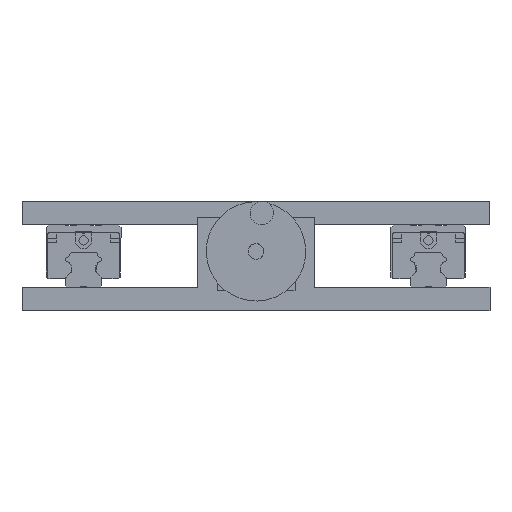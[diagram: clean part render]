
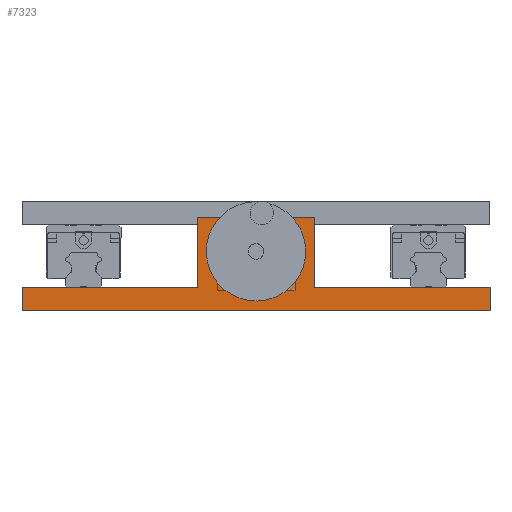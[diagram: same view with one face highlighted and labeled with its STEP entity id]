
A CAD part, front view. The second image highlights one B-rep face of the part: STEP entity #7323.
In plain terms, the highlighted planar face has unit normal (0, -1, 0).
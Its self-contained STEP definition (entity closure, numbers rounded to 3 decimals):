
#144 = DIRECTION ( 'NONE',  ( 1., 0., 0. ) ) ;
#635 = CARTESIAN_POINT ( 'NONE',  ( -150., -966.5, 15. ) ) ;
#1485 = ORIENTED_EDGE ( 'NONE', *, *, #26639, .F. ) ;
#1742 = VERTEX_POINT ( 'NONE', #74416 ) ;
#2637 = LINE ( 'NONE', #25836, #50722 ) ;
#3008 = DIRECTION ( 'NONE',  ( 0., 0., -1. ) ) ;
#3337 = VERTEX_POINT ( 'NONE', #26610 ) ;
#3780 = DIRECTION ( 'NONE',  ( 0., 0., -1. ) ) ;
#4193 = FACE_OUTER_BOUND ( 'NONE', #14834, .T. ) ;
#7323 = ADVANCED_FACE ( 'NONE', ( #21280, #4193 ), #64630, .F. ) ;
#8180 = AXIS2_PLACEMENT_3D ( 'NONE', #50571, #38016, #19242 ) ;
#9161 = CARTESIAN_POINT ( 'NONE',  ( 150., -966.5, 15. ) ) ;
#11753 = DIRECTION ( 'NONE',  ( 0., 0., 1. ) ) ;
#13687 = EDGE_CURVE ( 'NONE', #1742, #80864, #18645, .T. ) ;
#14834 = EDGE_LOOP ( 'NONE', ( #48722, #1485, #59500, #16850, #24028, #81142, #36304, #14897 ) ) ;
#14897 = ORIENTED_EDGE ( 'NONE', *, *, #43903, .T. ) ;
#16269 = AXIS2_PLACEMENT_3D ( 'NONE', #53475, #66490, #78827 ) ;
#16850 = ORIENTED_EDGE ( 'NONE', *, *, #42183, .F. ) ;
#18645 = LINE ( 'NONE', #55545, #73817 ) ;
#18705 = DIRECTION ( 'NONE',  ( 1., 0., 0. ) ) ;
#19215 = CARTESIAN_POINT ( 'NONE',  ( -150., -966.5, 0. ) ) ;
#19242 = DIRECTION ( 'NONE',  ( 0., 0., 1. ) ) ;
#20196 = VECTOR ( 'NONE', #51293, 1000. ) ;
#20588 = VERTEX_POINT ( 'NONE', #49660 ) ;
#20744 = CARTESIAN_POINT ( 'NONE',  ( 0., -966.5, 33. ) ) ;
#21280 = FACE_BOUND ( 'NONE', #76544, .T. ) ;
#21563 = LINE ( 'NONE', #9161, #70685 ) ;
#23049 = EDGE_CURVE ( 'NONE', #1742, #30227, #58744, .T. ) ;
#23827 = CIRCLE ( 'NONE', #16269, 5. ) ;
#24028 = ORIENTED_EDGE ( 'NONE', *, *, #13687, .F. ) ;
#24358 = ORIENTED_EDGE ( 'NONE', *, *, #55743, .F. ) ;
#24529 = CARTESIAN_POINT ( 'NONE',  ( 150., -966.5, 15. ) ) ;
#25836 = CARTESIAN_POINT ( 'NONE',  ( -150., -966.5, 15. ) ) ;
#26211 = EDGE_CURVE ( 'NONE', #3337, #30227, #2637, .T. ) ;
#26583 = CARTESIAN_POINT ( 'NONE',  ( -37.5, -966.5, 60. ) ) ;
#26610 = CARTESIAN_POINT ( 'NONE',  ( -150., -966.5, 15. ) ) ;
#26639 = EDGE_CURVE ( 'NONE', #75140, #29865, #21563, .T. ) ;
#26644 = AXIS2_PLACEMENT_3D ( 'NONE', #50094, #31140, #11753 ) ;
#29319 = EDGE_CURVE ( 'NONE', #40572, #75140, #78547, .T. ) ;
#29865 = VERTEX_POINT ( 'NONE', #32309 ) ;
#30227 = VERTEX_POINT ( 'NONE', #42049 ) ;
#30437 = VERTEX_POINT ( 'NONE', #82163 ) ;
#31140 = DIRECTION ( 'NONE',  ( 0., -1., 0. ) ) ;
#31755 = LINE ( 'NONE', #42730, #45728 ) ;
#31869 = EDGE_CURVE ( 'NONE', #20588, #29865, #74755, .T. ) ;
#32309 = CARTESIAN_POINT ( 'NONE',  ( 150., -966.5, 0. ) ) ;
#34648 = ORIENTED_EDGE ( 'NONE', *, *, #75600, .F. ) ;
#35061 = CARTESIAN_POINT ( 'NONE',  ( 37.5, -966.5, 60. ) ) ;
#36304 = ORIENTED_EDGE ( 'NONE', *, *, #26211, .F. ) ;
#37198 = LINE ( 'NONE', #635, #20196 ) ;
#38016 = DIRECTION ( 'NONE',  ( 0., 1., 0. ) ) ;
#40572 = VERTEX_POINT ( 'NONE', #69346 ) ;
#42049 = CARTESIAN_POINT ( 'NONE',  ( -37.5, -966.5, 15. ) ) ;
#42183 = EDGE_CURVE ( 'NONE', #80864, #40572, #31755, .T. ) ;
#42730 = CARTESIAN_POINT ( 'NONE',  ( 37.5, -966.5, 60. ) ) ;
#43903 = EDGE_CURVE ( 'NONE', #3337, #20588, #37198, .T. ) ;
#44584 = VECTOR ( 'NONE', #144, 1000. ) ;
#45728 = VECTOR ( 'NONE', #3780, 1000. ) ;
#48722 = ORIENTED_EDGE ( 'NONE', *, *, #31869, .T. ) ;
#48834 = DIRECTION ( 'NONE',  ( 1., 0., 0. ) ) ;
#49660 = CARTESIAN_POINT ( 'NONE',  ( -150., -966.5, 0. ) ) ;
#50094 = CARTESIAN_POINT ( 'NONE',  ( 0., -966.5, 38. ) ) ;
#50556 = CARTESIAN_POINT ( 'NONE',  ( -150., -966.5, 15. ) ) ;
#50571 = CARTESIAN_POINT ( 'NONE',  ( -150., -966.5, 15. ) ) ;
#50722 = VECTOR ( 'NONE', #77108, 1000. ) ;
#51293 = DIRECTION ( 'NONE',  ( 0., 0., -1. ) ) ;
#51938 = DIRECTION ( 'NONE',  ( 0., 0., -1. ) ) ;
#53475 = CARTESIAN_POINT ( 'NONE',  ( 0., -966.5, 38. ) ) ;
#55545 = CARTESIAN_POINT ( 'NONE',  ( -37.5, -966.5, 60. ) ) ;
#55688 = VECTOR ( 'NONE', #51938, 1000. ) ;
#55743 = EDGE_CURVE ( 'NONE', #30437, #64915, #79537, .T. ) ;
#58744 = LINE ( 'NONE', #26583, #55688 ) ;
#59500 = ORIENTED_EDGE ( 'NONE', *, *, #29319, .F. ) ;
#61477 = VECTOR ( 'NONE', #18705, 1000. ) ;
#64630 = PLANE ( 'NONE',  #8180 ) ;
#64915 = VERTEX_POINT ( 'NONE', #20744 ) ;
#66490 = DIRECTION ( 'NONE',  ( 0., -1., 0. ) ) ;
#69346 = CARTESIAN_POINT ( 'NONE',  ( 37.5, -966.5, 15. ) ) ;
#70685 = VECTOR ( 'NONE', #3008, 1000. ) ;
#73817 = VECTOR ( 'NONE', #48834, 1000. ) ;
#74416 = CARTESIAN_POINT ( 'NONE',  ( -37.5, -966.5, 60. ) ) ;
#74755 = LINE ( 'NONE', #19215, #44584 ) ;
#75140 = VERTEX_POINT ( 'NONE', #24529 ) ;
#75600 = EDGE_CURVE ( 'NONE', #64915, #30437, #23827, .T. ) ;
#76544 = EDGE_LOOP ( 'NONE', ( #24358, #34648 ) ) ;
#77108 = DIRECTION ( 'NONE',  ( 1., 0., 0. ) ) ;
#78547 = LINE ( 'NONE', #50556, #61477 ) ;
#78827 = DIRECTION ( 'NONE',  ( 0., 0., 1. ) ) ;
#79537 = CIRCLE ( 'NONE', #26644, 5. ) ;
#80864 = VERTEX_POINT ( 'NONE', #35061 ) ;
#81142 = ORIENTED_EDGE ( 'NONE', *, *, #23049, .T. ) ;
#82163 = CARTESIAN_POINT ( 'NONE',  ( 0., -966.5, 43. ) ) ;
